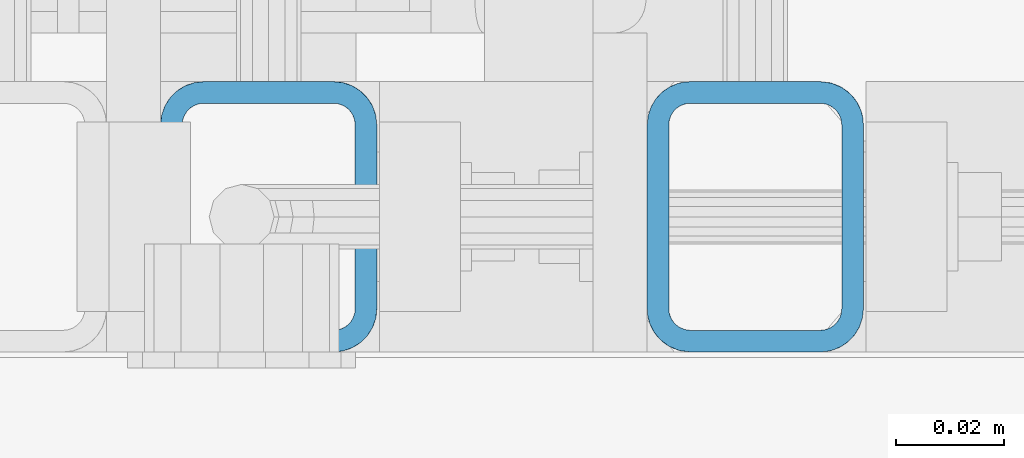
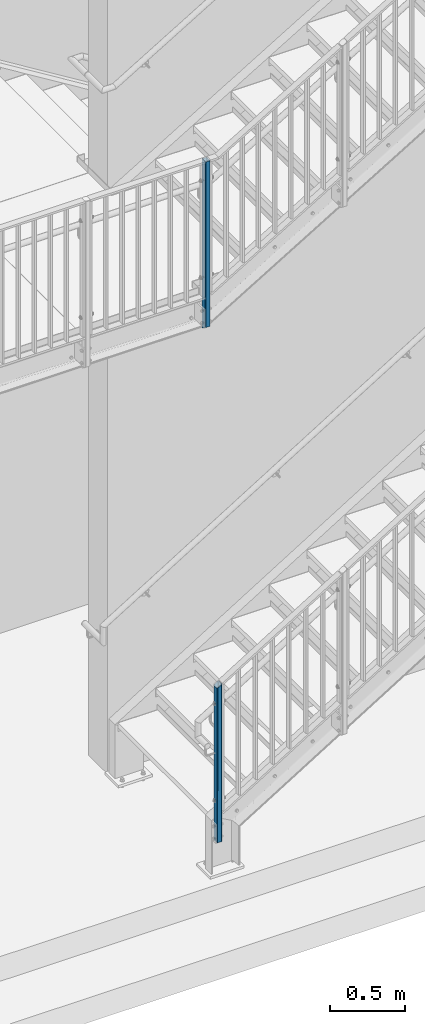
# One storey, part 4 of 410: 2 columns, 16 openings.
"""IFC2X3 building model written with IfcOpenShell, lengths in millimetres."""

from ifc_helpers import new_model, entity, si_unit, converted_unit, frame, frame_2d, origin, origin_with_axes, origin_2d, place, context, project, spatial, hollow_rectangle, circle, extrude, clip, halfspace, material, element, save


model = new_model("IFC2X3")

# Units and contexts
model_context = context("Model", 3, precision=1e-09, world=origin_with_axes())
ifc_project = project(units=[si_unit("LENGTHUNIT", "METRE", prefix="MILLI"), si_unit("AREAUNIT", "SQUARE_METRE"), si_unit("VOLUMEUNIT", "CUBIC_METRE"), converted_unit("PLANEANGLEUNIT", "DEGREE", entity("IfcPlaneAngleMeasure", 0.01745329), si_unit("PLANEANGLEUNIT", "RADIAN"), dimensions=[0, 0, 0, 0, 0, 0, 0])], contexts=[model_context])

# Site, building, storey
site_placement = place(None, origin_with_axes())
site = spatial("IfcSite", under=ifc_project, at=site_placement, Name="mKR Teilneubau & Sanierung BA1 - Ostfildern", CompositionType="ELEMENT")
building_placement = place(site_placement, origin_with_axes())
building = spatial("IfcBuilding", under=site, at=building_placement, Name="Struktur 1", CompositionType="ELEMENT")
storey_placement = place(building_placement, origin_with_axes())
storey = spatial("IfcBuildingStorey", under=building, at=storey_placement, Name="Default Storey", CompositionType="ELEMENT", Elevation=0.0)

# Column, openings
ifc_material = material(Name="S235JR")
column_1_placement = place(None, frame((-1784.99853167, 15405.999999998, 1095.0), z_axis=(0.0, 0.0, 1.0), x_axis=(-1.0, 0.0, 0.0)))
column_1 = element("IfcColumn", 1, at=column_1_placement, inside=storey, material=ifc_material, Name="-", ObjectType="-", context=model_context, shape_type="Clipping", body=[
    clip(extrude(hollow_rectangle(XDim=40.0, YDim=50.0, WallThickness=4.0, InnerFilletRadius=4.0, OuterFilletRadius=8.0, at=origin_2d()), origin(), (0.0, 0.0, -1.0), 1444.603221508), halfspace(frame((-1784.99853167, 10460.912809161, 5967.316414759), z_axis=(0.0, -0.573576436, 0.819152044), x_axis=(1.0, 0.0, 0.0)), True)),
])
opening_1_placement = place(column_1_placement, frame((-20.5, 0.0, -1265.0), z_axis=(1.0, 0.0, 0.0), x_axis=(0.0, 1.0, 0.0)))
element("IfcOpeningElement", 2, at=opening_1_placement, cuts=column_1, ObjectType="Opening", context=model_context, shape_type="SweptSolid", body=[
    extrude(circle(Radius=7.001, at=frame_2d((0.0, 50.0), x_axis=(1.0, 0.0))), origin(), (0.0, 0.0, 1.0), 5.0),
])
opening_2_placement = place(column_1_placement, frame((-20.5, 0.0, -1265.0), z_axis=(1.0, 0.0, 0.0), x_axis=(0.0, 1.0, 0.0)))
element("IfcOpeningElement", 3, at=opening_2_placement, cuts=column_1, ObjectType="Opening", context=model_context, shape_type="SweptSolid", body=[
    extrude(circle(Radius=7.001, at=frame_2d((0.0, -50.0), x_axis=(1.0, 0.0))), origin(), (0.0, 0.0, 1.0), 5.0),
])
opening_3_placement = place(column_1_placement, frame((15.5, 0.0, -1265.0), z_axis=(1.0, 0.0, 0.0), x_axis=(0.0, 1.0, 0.0)))
element("IfcOpeningElement", 4, at=opening_3_placement, cuts=column_1, ObjectType="Opening", context=model_context, shape_type="SweptSolid", body=[
    extrude(circle(Radius=7.001, at=frame_2d((0.0, 50.0), x_axis=(1.0, 0.0))), origin(), (0.0, 0.0, 1.0), 5.0),
])
opening_4_placement = place(column_1_placement, frame((15.5, 0.0, -1265.0), z_axis=(1.0, 0.0, 0.0), x_axis=(0.0, 1.0, 0.0)))
element("IfcOpeningElement", 5, at=opening_4_placement, cuts=column_1, ObjectType="Opening", context=model_context, shape_type="SweptSolid", body=[
    extrude(circle(Radius=7.001, at=frame_2d((0.0, -50.0), x_axis=(1.0, 0.0))), origin(), (0.0, 0.0, 1.0), 5.0),
])
opening_5_placement = place(column_1_placement, frame((15.5, -6.501, -945.0), z_axis=(-1.0, 0.0, 0.0), x_axis=(0.0, -1.0, 0.0)))
element("IfcOpeningElement", 6, at=opening_5_placement, cuts=column_1, ObjectType="Opening", context=model_context, shape_type="SweptSolid", body=[
    extrude(circle(Radius=6.501, at=frame_2d((-6.501, 0.0), x_axis=(1.0, 0.0))), origin(), (0.0, 0.0, -1.0), 5.0),
])
opening_6_placement = place(column_1_placement, frame((15.5, -6.501, -160.0), z_axis=(-1.0, 0.0, 0.0), x_axis=(0.0, -1.0, 0.0)))
element("IfcOpeningElement", 7, at=opening_6_placement, cuts=column_1, ObjectType="Opening", context=model_context, shape_type="SweptSolid", body=[
    extrude(circle(Radius=6.501, at=frame_2d((-6.501, 0.0), x_axis=(1.0, 0.0))), origin(), (0.0, 0.0, -1.0), 5.0),
])
opening_7_placement = place(column_1_placement, frame((-20.5, -6.501, -945.0), z_axis=(-1.0, 0.0, 0.0), x_axis=(0.0, -1.0, 0.0)))
element("IfcOpeningElement", 8, at=opening_7_placement, cuts=column_1, ObjectType="Opening", context=model_context, shape_type="SweptSolid", body=[
    extrude(circle(Radius=6.501, at=frame_2d((-6.501, 0.0), x_axis=(1.0, 0.0))), origin(), (0.0, 0.0, -1.0), 5.0),
])
opening_8_placement = place(column_1_placement, frame((-20.5, -6.501, -160.0), z_axis=(-1.0, 0.0, 0.0), x_axis=(0.0, -1.0, 0.0)))
element("IfcOpeningElement", 9, at=opening_8_placement, cuts=column_1, ObjectType="Opening", context=model_context, shape_type="SweptSolid", body=[
    extrude(circle(Radius=6.501, at=frame_2d((-6.501, 0.0), x_axis=(1.0, 0.0))), origin(), (0.0, 0.0, -1.0), 5.0),
])

column_2_placement = place(None, frame((-1694.998531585, 15405.999999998, -3111.59501203), z_axis=(0.0, 0.0, 1.0), x_axis=(-1.0, 0.0, 0.0)))
column_2 = element("IfcColumn", 10, at=column_2_placement, inside=storey, material=ifc_material, Name="-", ObjectType="-", context=model_context, shape_type="Clipping", body=[
    clip(extrude(hollow_rectangle(XDim=40.0, YDim=50.0, WallThickness=4.0, InnerFilletRadius=4.0, OuterFilletRadius=8.0, at=origin_2d()), origin(), (0.0, 0.0, -1.0), 1341.937167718), halfspace(frame((-2653.621616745, 15405.999999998, 1556.781283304), z_axis=(-0.524817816, 0.0, -0.851214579), x_axis=(0.0, -1.0, 0.0)), True)),
])
opening_9_placement = place(column_2_placement, frame((-20.5, 0.0, -1266.937167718), z_axis=(1.0, 0.0, 0.0), x_axis=(0.0, 1.0, 0.0)))
element("IfcOpeningElement", 11, at=opening_9_placement, cuts=column_2, ObjectType="Opening", context=model_context, shape_type="SweptSolid", body=[
    extrude(circle(Radius=7.001, at=frame_2d((0.0, 50.0), x_axis=(1.0, 0.0))), origin(), (0.0, 0.0, 1.0), 5.0),
])
opening_10_placement = place(column_2_placement, frame((-20.5, 0.0, -1266.937167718), z_axis=(1.0, 0.0, 0.0), x_axis=(0.0, 1.0, 0.0)))
element("IfcOpeningElement", 12, at=opening_10_placement, cuts=column_2, ObjectType="Opening", context=model_context, shape_type="SweptSolid", body=[
    extrude(circle(Radius=7.001, at=frame_2d((0.0, -50.0), x_axis=(1.0, 0.0))), origin(), (0.0, 0.0, 1.0), 5.0),
])
opening_11_placement = place(column_2_placement, frame((15.5, 0.0, -1266.937167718), z_axis=(1.0, 0.0, 0.0), x_axis=(0.0, 1.0, 0.0)))
element("IfcOpeningElement", 13, at=opening_11_placement, cuts=column_2, ObjectType="Opening", context=model_context, shape_type="SweptSolid", body=[
    extrude(circle(Radius=7.001, at=frame_2d((0.0, 50.0), x_axis=(1.0, 0.0))), origin(), (0.0, 0.0, 1.0), 5.0),
])
opening_12_placement = place(column_2_placement, frame((15.5, 0.0, -1266.937167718), z_axis=(1.0, 0.0, 0.0), x_axis=(0.0, 1.0, 0.0)))
element("IfcOpeningElement", 14, at=opening_12_placement, cuts=column_2, ObjectType="Opening", context=model_context, shape_type="SweptSolid", body=[
    extrude(circle(Radius=7.001, at=frame_2d((0.0, -50.0), x_axis=(1.0, 0.0))), origin(), (0.0, 0.0, 1.0), 5.0),
])
opening_13_placement = place(column_2_placement, frame((15.5, -6.501, -1011.982665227), z_axis=(-1.0, 0.0, 0.0), x_axis=(0.0, -1.0, 0.0)))
element("IfcOpeningElement", 15, at=opening_13_placement, cuts=column_2, ObjectType="Opening", context=model_context, shape_type="SweptSolid", body=[
    extrude(circle(Radius=6.501, at=frame_2d((-6.501, 0.0), x_axis=(1.0, 0.0))), origin(), (0.0, 0.0, -1.0), 5.0),
])
opening_14_placement = place(column_2_placement, frame((15.5, -6.501, -226.982665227), z_axis=(-1.0, 0.0, 0.0), x_axis=(0.0, -1.0, 0.0)))
element("IfcOpeningElement", 16, at=opening_14_placement, cuts=column_2, ObjectType="Opening", context=model_context, shape_type="SweptSolid", body=[
    extrude(circle(Radius=6.501, at=frame_2d((-6.501, 0.0), x_axis=(1.0, 0.0))), origin(), (0.0, 0.0, -1.0), 5.0),
])
opening_15_placement = place(column_2_placement, frame((-20.5, -6.501, -1011.982665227), z_axis=(-1.0, 0.0, 0.0), x_axis=(0.0, -1.0, 0.0)))
element("IfcOpeningElement", 17, at=opening_15_placement, cuts=column_2, ObjectType="Opening", context=model_context, shape_type="SweptSolid", body=[
    extrude(circle(Radius=6.501, at=frame_2d((-6.501, 0.0), x_axis=(1.0, 0.0))), origin(), (0.0, 0.0, -1.0), 5.0),
])
opening_16_placement = place(column_2_placement, frame((-20.5, -6.501, -226.982665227), z_axis=(-1.0, 0.0, 0.0), x_axis=(0.0, -1.0, 0.0)))
element("IfcOpeningElement", 18, at=opening_16_placement, cuts=column_2, ObjectType="Opening", context=model_context, shape_type="SweptSolid", body=[
    extrude(circle(Radius=6.501, at=frame_2d((-6.501, 0.0), x_axis=(1.0, 0.0))), origin(), (0.0, 0.0, -1.0), 5.0),
])

save(model, "model.ifc")
